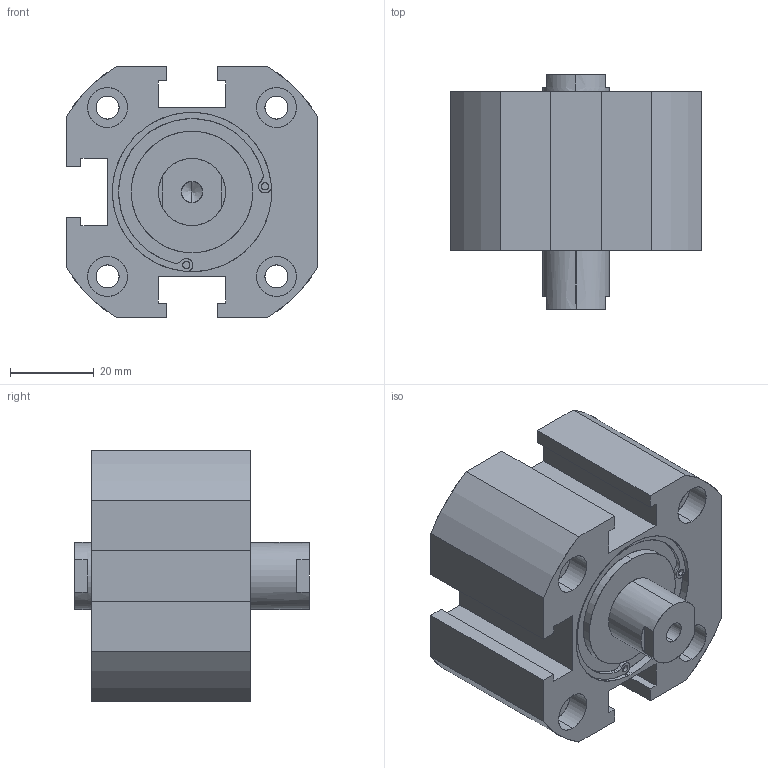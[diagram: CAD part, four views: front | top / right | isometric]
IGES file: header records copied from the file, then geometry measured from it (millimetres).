
Start section: SolidWorks IGES file using analytic representation for surfaces
Global section: file name: C:\Users\Toshiba\Desktop\XC#7-40-10.IGS; native system: SolidWorks 2014; preprocessor: SolidWorks 2014; author: Toshiba; date: 160523.162455; units: millimetre
Bounding box: 60 x 56 x 60 mm (x, y, z)
Surface area: 22876.8 mm2 (no closed solid volume)
Topology: 0 solids, 0 shells, 149 faces, 2692 edges, 2684 vertices
Faces by surface type: revolution 89, bspline 60
